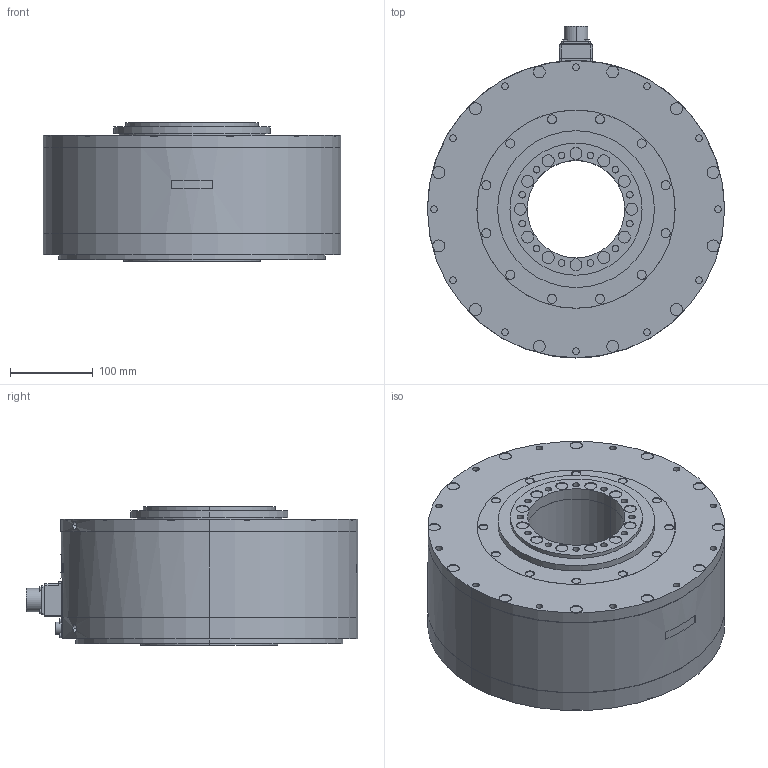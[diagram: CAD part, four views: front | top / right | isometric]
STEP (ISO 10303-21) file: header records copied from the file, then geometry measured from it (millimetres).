
FILE_DESCRIPTION (( 'STEP AP203' ), '1' );
FILE_NAME ('sgm7f_80n_a3_.STEP', '2016-08-19T09:28:18', ( '' ), ( '' ), 'SwSTEP 2.0', 'SolidWorks 2010', '' );
FILE_SCHEMA (( 'CONFIG_CONTROL_DESIGN' ));
Length unit declared in the file: millimetre
Products named in the file (1): sgm7f_80n_a3_
Bounding box: 360 x 402 x 167.5 mm (x, y, z)
Volume: 13498989.2 mm3; surface area: 476477.1 mm2
Topology: 1 solids, 1 shells, 540 faces, 1146 edges, 764 vertices
Faces by surface type: cylinder 326, plane 209, bspline 5
Entity records: 15453 total; most frequent: CARTESIAN_POINT 3044, DIRECTION 2854, ORIENTED_EDGE 2292, AXIS2_PLACEMENT_3D 1196, EDGE_CURVE 1146, VERTEX_POINT 764, EDGE_LOOP 698, CIRCLE 660
